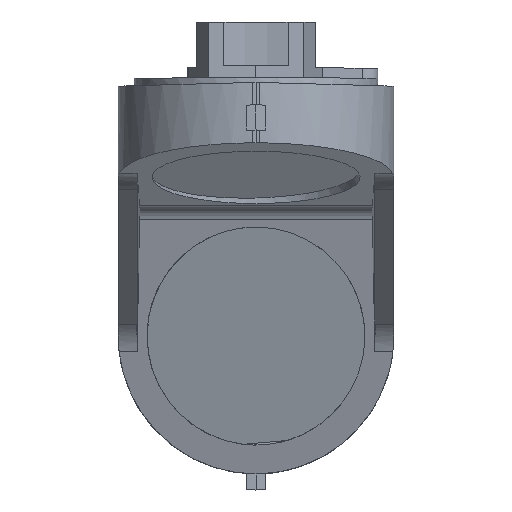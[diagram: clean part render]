
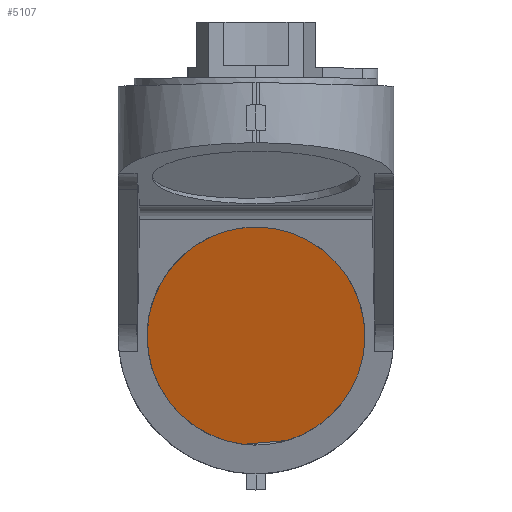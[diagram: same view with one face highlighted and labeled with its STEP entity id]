
A CAD part, top view. The second image highlights one B-rep face of the part: STEP entity #5107.
In plain terms, the highlighted planar face has unit normal (0.026, -0.292, 0.956).
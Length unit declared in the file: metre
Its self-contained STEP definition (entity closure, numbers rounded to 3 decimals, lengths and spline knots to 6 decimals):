
#43 = VERTEX_POINT ( 'NONE', #4585 ) ;
#175 = VERTEX_POINT ( 'NONE', #4426 ) ;
#358 = CARTESIAN_POINT ( 'NONE',  ( 0.012967, 0.169505, 0.536955 ) ) ;
#483 = ORIENTED_EDGE ( 'NONE', *, *, #2505, .T. ) ;
#900 = CARTESIAN_POINT ( 'NONE',  ( 0.04935, -0.162679, 0.4344 ) ) ;
#1036 = CARTESIAN_POINT ( 'NONE',  ( -0.000366, 0.184581, 0.54193 ) ) ;
#1178 = VECTOR ( 'NONE', #4215, 1. ) ;
#1363 = EDGE_CURVE ( 'NONE', #175, #6572, #8438, .T. ) ;
#1818 = DIRECTION ( 'NONE',  ( 0., 0.956, 0.292 ) ) ;
#2049 = CARTESIAN_POINT ( 'NONE',  ( -0.301563, 0.162788, 0.543514 ) ) ;
#2505 = EDGE_CURVE ( 'NONE', #7091, #43, #5156, .T. ) ;
#3202 = LINE ( 'NONE', #4935, #1178 ) ;
#3206 = AXIS2_PLACEMENT_3D ( 'NONE', #1036, #6280, #1818 ) ;
#3367 = EDGE_CURVE ( 'NONE', #43, #6572, #9194, .T. ) ;
#3522 = CARTESIAN_POINT ( 'NONE',  ( -0.004092, 0.169951, 0.537559 ) ) ;
#4119 = CARTESIAN_POINT ( 'NONE',  ( 0.04935, -0.162679, 0.4344 ) ) ;
#4215 = DIRECTION ( 'NONE',  ( -0.996, -0.089, 0. ) ) ;
#4248 = ORIENTED_EDGE ( 'NONE', *, *, #1363, .F. ) ;
#4426 = CARTESIAN_POINT ( 'NONE',  ( -0.019656, -0.16886, 0.4344 ) ) ;
#4585 = CARTESIAN_POINT ( 'NONE',  ( 0.012967, 0.169505, 0.536955 ) ) ;
#4605 = CARTESIAN_POINT ( 'NONE',  ( 0.168922, 0.165428, 0.531438 ) ) ;
#4838 = CARTESIAN_POINT ( 'NONE',  ( 0.256396, 0.150883, 0.524596 ) ) ;
#4854 = VECTOR ( 'NONE', #9084, 1. ) ;
#4935 = CARTESIAN_POINT ( 'NONE',  ( 0.030884, -0.164333, 0.4344 ) ) ;
#5107 = ADVANCED_FACE ( 'NONE', ( #8005 ), #7753, .T. ) ;
#5156 =( BOUNDED_CURVE ( )  B_SPLINE_CURVE ( 3, ( #4119, #8554, #4838, #358 ),
 .UNSPECIFIED., .F., .F. ) 
 B_SPLINE_CURVE_WITH_KNOTS ( ( 4, 4 ),
 ( 3.346802, 6.117511 ),
 .UNSPECIFIED. ) 
 CURVE ( )  GEOMETRIC_REPRESENTATION_ITEM ( )  RATIONAL_B_SPLINE_CURVE ( ( 1., 0.456, 0.456, 1. ) ) 
 REPRESENTATION_ITEM ( '' )  );
#5753 = EDGE_CURVE ( 'NONE', #7091, #175, #3202, .T. ) ;
#6280 = DIRECTION ( 'NONE',  ( 0.026, -0.292, 0.956 ) ) ;
#6507 = CARTESIAN_POINT ( 'NONE',  ( -0.019656, -0.16886, 0.4344 ) ) ;
#6572 = VERTEX_POINT ( 'NONE', #8992 ) ;
#7091 = VERTEX_POINT ( 'NONE', #900 ) ;
#7729 = EDGE_LOOP ( 'NONE', ( #4248, #7931, #483, #8851 ) ) ;
#7753 = PLANE ( 'NONE',  #3206 ) ;
#7931 = ORIENTED_EDGE ( 'NONE', *, *, #5753, .F. ) ;
#8005 = FACE_OUTER_BOUND ( 'NONE', #7729, .T. ) ;
#8019 = CARTESIAN_POINT ( 'NONE',  ( -0.315217, -0.134455, 0.453012 ) ) ;
#8438 =( BOUNDED_CURVE ( )  B_SPLINE_CURVE ( 3, ( #6507, #8019, #2049, #3522 ),
 .UNSPECIFIED., .F., .T. ) 
 B_SPLINE_CURVE_WITH_KNOTS ( ( 4, 4 ),
 ( 3.346802, 6.348438 ),
 .UNSPECIFIED. ) 
 CURVE ( )  GEOMETRIC_REPRESENTATION_ITEM ( )  RATIONAL_B_SPLINE_CURVE ( ( 1., 0.38, 0.38, 1. ) ) 
 REPRESENTATION_ITEM ( '' )  );
#8554 = CARTESIAN_POINT ( 'NONE',  ( 0.282978, -0.091807, 0.449671 ) ) ;
#8851 = ORIENTED_EDGE ( 'NONE', *, *, #3367, .T. ) ;
#8992 = CARTESIAN_POINT ( 'NONE',  ( -0.004092, 0.169951, 0.537559 ) ) ;
#9084 = DIRECTION ( 'NONE',  ( -0.999, 0.026, 0.035 ) ) ;
#9194 = LINE ( 'NONE', #4605, #4854 ) ;
